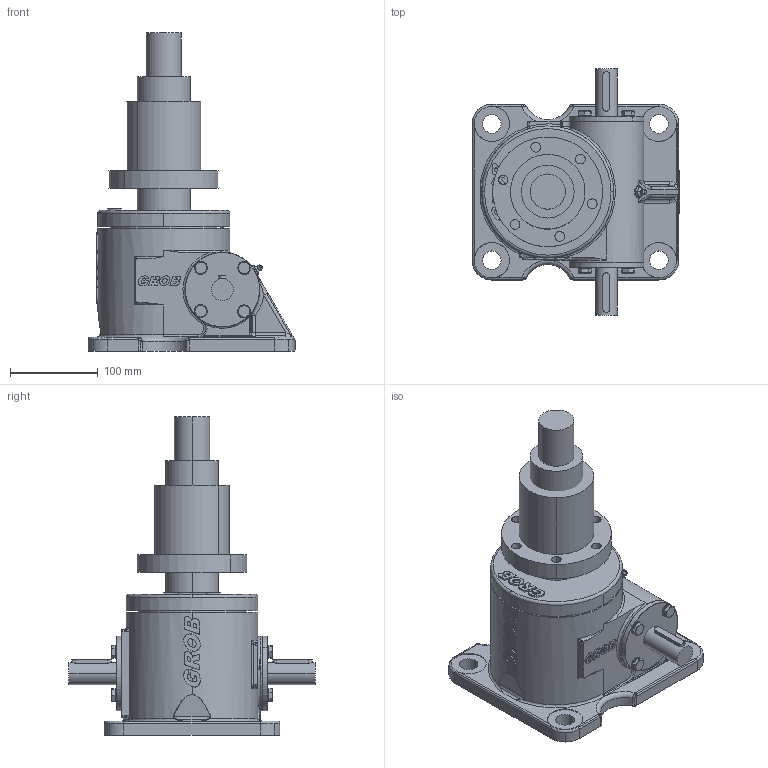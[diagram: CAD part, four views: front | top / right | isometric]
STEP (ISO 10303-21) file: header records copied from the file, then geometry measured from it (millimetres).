
FILE_DESCRIPTION(('STEP AP203'),'1');
FILE_NAME('mc15-lmn-f-1f-z-0003-0152-tr60x12-ab-mg0-o_ohne.stp','2023-12-20T14:56:11',('TraceParts'),('TraceParts S.A.'),'Spatial InterOp 3D',' ',' ');
FILE_SCHEMA(('CONFIG_CONTROL_DESIGN'));
Length unit declared in the file: millimetre
Products named in the file (1): 1
Bounding box: 236.3 x 280 x 362 mm (x, y, z)
Volume: 5262089.5 mm3; surface area: 314969.7 mm2
Topology: 3 solids, 3 shells, 1784 faces, 4970 edges, 3220 vertices
Faces by surface type: cylinder 1088, plane 504, cone 92, bspline 82, torus 16, sphere 2
Entity records: 61064 total; most frequent: CARTESIAN_POINT 14188, DIRECTION 10361, ORIENTED_EDGE 9886, EDGE_CURVE 4943, AXIS2_PLACEMENT_3D 4035, VERTEX_POINT 3220, CIRCLE 2306, LINE 2291
